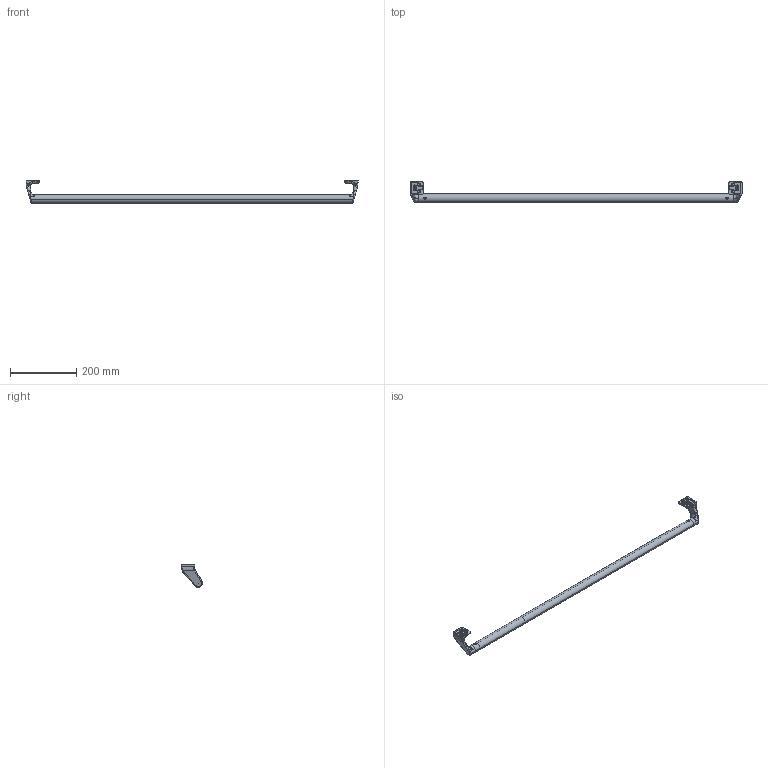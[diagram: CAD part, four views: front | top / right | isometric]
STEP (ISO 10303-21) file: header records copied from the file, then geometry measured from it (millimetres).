
FILE_DESCRIPTION (( 'STEP AP214' ), '1' );
FILE_NAME ('A73 KA-1223-8.STEP', '2016-11-24T02:37:37', ( '' ), ( '' ), 'SwSTEP 2.0', 'SolidWorks 2011', '' );
FILE_SCHEMA (( 'AUTOMOTIVE_DESIGN' ));
Length unit declared in the file: millimetre
Products named in the file (1): A73 KA-1223-8
Bounding box: 1000 x 62.8 x 67.8 mm (x, y, z)
Volume: 199676.5 mm3; surface area: 165016.7 mm2
Topology: 1 solids, 1 shells, 520 faces, 1374 edges, 876 vertices
Faces by surface type: plane 254, bspline 146, cylinder 92, cone 28
Entity records: 23944 total; most frequent: CARTESIAN_POINT 12019, ORIENTED_EDGE 2724, DIRECTION 1936, EDGE_CURVE 1362, VERTEX_POINT 876, VECTOR 850, LINE 850, EDGE_LOOP 566
